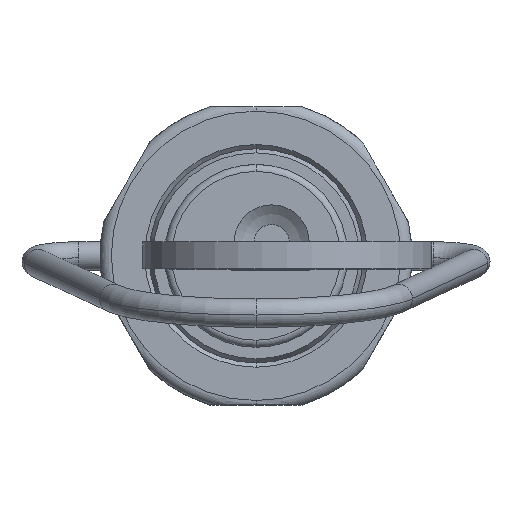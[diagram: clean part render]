
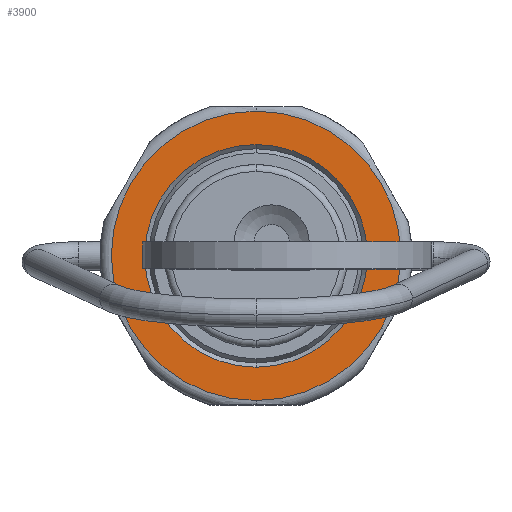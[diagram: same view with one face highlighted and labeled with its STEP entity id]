
A CAD part, top view. The second image highlights one B-rep face of the part: STEP entity #3900.
In plain terms, the highlighted planar face has unit normal (0, 0, 1).
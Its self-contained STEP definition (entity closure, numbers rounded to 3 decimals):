
#170 = EDGE_CURVE ( 'NONE', #2834, #3022, #295, .T. ) ;
#229 = EDGE_CURVE ( 'NONE', #3018, #3759, #1205, .T. ) ;
#231 = AXIS2_PLACEMENT_3D ( 'NONE', #2862, #3127, #2153 ) ;
#295 = CIRCLE ( 'NONE', #231, 7.85 ) ;
#302 = DIRECTION ( 'NONE',  ( 0., -1., 0. ) ) ;
#320 = DIRECTION ( 'NONE',  ( 0., -1., 0. ) ) ;
#360 = AXIS2_PLACEMENT_3D ( 'NONE', #870, #2152, #3392 ) ;
#432 = CIRCLE ( 'NONE', #1925, 10.2 ) ;
#449 = DIRECTION ( 'NONE',  ( 0., 0., 1. ) ) ;
#795 = CARTESIAN_POINT ( 'NONE',  ( -10.2, 0., 43.5 ) ) ;
#870 = CARTESIAN_POINT ( 'NONE',  ( 0., 0., 43.5 ) ) ;
#981 = ORIENTED_EDGE ( 'NONE', *, *, #2094, .F. ) ;
#1023 = AXIS2_PLACEMENT_3D ( 'NONE', #795, #449, #3599 ) ;
#1159 = CIRCLE ( 'NONE', #360, 7.85 ) ;
#1205 = CIRCLE ( 'NONE', #2829, 10.2 ) ;
#1283 = CARTESIAN_POINT ( 'NONE',  ( 0., -7.85, 43.5 ) ) ;
#1642 = ORIENTED_EDGE ( 'NONE', *, *, #2434, .T. ) ;
#1719 = EDGE_LOOP ( 'NONE', ( #1642, #3826 ) ) ;
#1925 = AXIS2_PLACEMENT_3D ( 'NONE', #3657, #3094, #302 ) ;
#1929 = CARTESIAN_POINT ( 'NONE',  ( 0., 10.2, 43.5 ) ) ;
#2094 = EDGE_CURVE ( 'NONE', #3759, #3018, #432, .T. ) ;
#2152 = DIRECTION ( 'NONE',  ( 0., 0., -1. ) ) ;
#2153 = DIRECTION ( 'NONE',  ( 0., -1., 0. ) ) ;
#2434 = EDGE_CURVE ( 'NONE', #3022, #2834, #1159, .T. ) ;
#2667 = CARTESIAN_POINT ( 'NONE',  ( 0., 7.85, 43.5 ) ) ;
#2829 = AXIS2_PLACEMENT_3D ( 'NONE', #3113, #3142, #320 ) ;
#2834 = VERTEX_POINT ( 'NONE', #1283 ) ;
#2862 = CARTESIAN_POINT ( 'NONE',  ( 0., 0., 43.5 ) ) ;
#3018 = VERTEX_POINT ( 'NONE', #3365 ) ;
#3022 = VERTEX_POINT ( 'NONE', #2667 ) ;
#3094 = DIRECTION ( 'NONE',  ( 0., 0., -1. ) ) ;
#3113 = CARTESIAN_POINT ( 'NONE',  ( 0., 0., 43.5 ) ) ;
#3127 = DIRECTION ( 'NONE',  ( 0., 0., -1. ) ) ;
#3142 = DIRECTION ( 'NONE',  ( 0., 0., -1. ) ) ;
#3198 = ORIENTED_EDGE ( 'NONE', *, *, #229, .F. ) ;
#3243 = FACE_BOUND ( 'NONE', #1719, .T. ) ;
#3365 = CARTESIAN_POINT ( 'NONE',  ( 0., -10.2, 43.5 ) ) ;
#3392 = DIRECTION ( 'NONE',  ( 0., -1., 0. ) ) ;
#3536 = EDGE_LOOP ( 'NONE', ( #3198, #981 ) ) ;
#3561 = FACE_OUTER_BOUND ( 'NONE', #3536, .T. ) ;
#3580 = PLANE ( 'NONE',  #1023 ) ;
#3599 = DIRECTION ( 'NONE',  ( -1., 0., 0. ) ) ;
#3657 = CARTESIAN_POINT ( 'NONE',  ( 0., 0., 43.5 ) ) ;
#3759 = VERTEX_POINT ( 'NONE', #1929 ) ;
#3826 = ORIENTED_EDGE ( 'NONE', *, *, #170, .T. ) ;
#3900 = ADVANCED_FACE ( 'NONE', ( #3243, #3561 ), #3580, .T. ) ;
